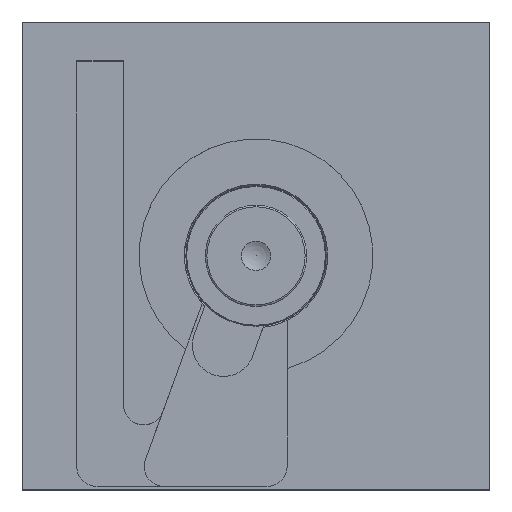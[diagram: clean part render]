
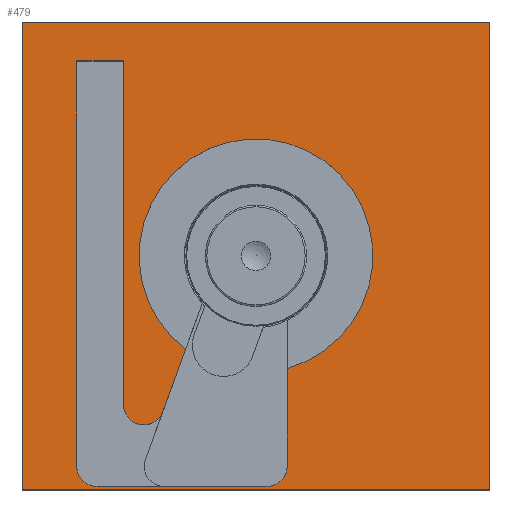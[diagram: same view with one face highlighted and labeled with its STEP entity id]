
A CAD part, top view. The second image highlights one B-rep face of the part: STEP entity #479.
In plain terms, the highlighted planar face has unit normal (0, 0, 1).
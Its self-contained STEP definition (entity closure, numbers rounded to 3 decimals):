
#479 = ADVANCED_FACE( '', ( #1025, #1026 ), #1027, .T. );
#1025 = FACE_OUTER_BOUND( '', #1605, .T. );
#1026 = FACE_BOUND( '', #1606, .T. );
#1027 = PLANE( '', #1607 );
#1605 = EDGE_LOOP( '', ( #2590, #2591, #2592, #2593 ) );
#1606 = EDGE_LOOP( '', ( #2594, #2595, #2596, #2597, #2598, #2599, #2600, #2601, #2602, #2603, #2604 ) );
#1607 = AXIS2_PLACEMENT_3D( '', #2605, #2606, #2607 );
#2590 = ORIENTED_EDGE( '', *, *, #3052, .T. );
#2591 = ORIENTED_EDGE( '', *, *, #2809, .T. );
#2592 = ORIENTED_EDGE( '', *, *, #2977, .T. );
#2593 = ORIENTED_EDGE( '', *, *, #2895, .T. );
#2594 = ORIENTED_EDGE( '', *, *, #2886, .T. );
#2595 = ORIENTED_EDGE( '', *, *, #2944, .T. );
#2596 = ORIENTED_EDGE( '', *, *, #2751, .F. );
#2597 = ORIENTED_EDGE( '', *, *, #2814, .T. );
#2598 = ORIENTED_EDGE( '', *, *, #3098, .T. );
#2599 = ORIENTED_EDGE( '', *, *, #2747, .T. );
#2600 = ORIENTED_EDGE( '', *, *, #2965, .T. );
#2601 = ORIENTED_EDGE( '', *, *, #3102, .T. );
#2602 = ORIENTED_EDGE( '', *, *, #2932, .T. );
#2603 = ORIENTED_EDGE( '', *, *, #3007, .T. );
#2604 = ORIENTED_EDGE( '', *, *, #3028, .T. );
#2605 = CARTESIAN_POINT( '', ( -150., -150., 0. ) );
#2606 = DIRECTION( '', ( 0., 0., 1. ) );
#2607 = DIRECTION( '', ( 0., -1., 0. ) );
#2747 = EDGE_CURVE( '', #3130, #3136, #3138, .T. );
#2751 = EDGE_CURVE( '', #3143, #3145, #3146, .T. );
#2809 = EDGE_CURVE( '', #3244, #3248, #3250, .T. );
#2814 = EDGE_CURVE( '', #3143, #3255, #3257, .T. );
#2886 = EDGE_CURVE( '', #3370, #3374, #3376, .T. );
#2895 = EDGE_CURVE( '', #3385, #3389, #3391, .T. );
#2932 = EDGE_CURVE( '', #3445, #3449, #3451, .T. );
#2944 = EDGE_CURVE( '', #3374, #3145, #3466, .T. );
#2965 = EDGE_CURVE( '', #3136, #3496, #3498, .T. );
#2977 = EDGE_CURVE( '', #3248, #3385, #3514, .T. );
#3007 = EDGE_CURVE( '', #3449, #3553, #3555, .T. );
#3028 = EDGE_CURVE( '', #3553, #3370, #3584, .T. );
#3052 = EDGE_CURVE( '', #3389, #3244, #3612, .T. );
#3098 = EDGE_CURVE( '', #3255, #3130, #3669, .F. );
#3102 = EDGE_CURVE( '', #3496, #3445, #3674, .F. );
#3130 = VERTEX_POINT( '', #3702 );
#3136 = VERTEX_POINT( '', #3711 );
#3138 = LINE( '', #3714, #3715 );
#3143 = VERTEX_POINT( '', #3720 );
#3145 = VERTEX_POINT( '', #3723 );
#3146 = CIRCLE( '', #3724, 75. );
#3244 = VERTEX_POINT( '', #4068 );
#3248 = VERTEX_POINT( '', #4074 );
#3250 = LINE( '', #4077, #4078 );
#3255 = VERTEX_POINT( '', #4085 );
#3257 = LINE( '', #4088, #4089 );
#3370 = VERTEX_POINT( '', #4432 );
#3374 = VERTEX_POINT( '', #4437 );
#3376 = CIRCLE( '', #4440, 13. );
#3385 = VERTEX_POINT( '', #4449 );
#3389 = VERTEX_POINT( '', #4455 );
#3391 = LINE( '', #4458, #4459 );
#3445 = VERTEX_POINT( '', #4520 );
#3449 = VERTEX_POINT( '', #4526 );
#3451 = LINE( '', #4529, #4530 );
#3466 = LINE( '', #4550, #4551 );
#3496 = VERTEX_POINT( '', #4585 );
#3498 = LINE( '', #4588, #4589 );
#3514 = LINE( '', #4606, #4607 );
#3553 = VERTEX_POINT( '', #4655 );
#3555 = LINE( '', #4658, #4659 );
#3584 = LINE( '', #4691, #4692 );
#3612 = LINE( '', #4725, #4726 );
#3669 = CIRCLE( '', #4792, 13. );
#3674 = CIRCLE( '', #4797, 13. );
#3702 = CARTESIAN_POINT( '', ( 7., -148., 0. ) );
#3711 = CARTESIAN_POINT( '', ( -58.714, -148., 0. ) );
#3714 = CARTESIAN_POINT( '', ( -150., -148., 0. ) );
#3715 = VECTOR( '', #4828, 1000. );
#3720 = CARTESIAN_POINT( '', ( 20., -72.284, 0. ) );
#3723 = CARTESIAN_POINT( '', ( -45.196, -59.852, 0. ) );
#3724 = AXIS2_PLACEMENT_3D( '', #4833, #4834, #4835 );
#4068 = CARTESIAN_POINT( '', ( -150., -150., 0. ) );
#4074 = CARTESIAN_POINT( '', ( 150., -150., 0. ) );
#4077 = CARTESIAN_POINT( '', ( -150., -150., 0. ) );
#4078 = VECTOR( '', #4898, 1000. );
#4085 = CARTESIAN_POINT( '', ( 20., -135., 0. ) );
#4088 = CARTESIAN_POINT( '', ( 20., -150., 0. ) );
#4089 = VECTOR( '', #4902, 1000. );
#4432 = CARTESIAN_POINT( '', ( -85., -95.485, 0. ) );
#4437 = CARTESIAN_POINT( '', ( -59.784, -99.931, 0. ) );
#4440 = AXIS2_PLACEMENT_3D( '', #4992, #4993, #4994 );
#4449 = CARTESIAN_POINT( '', ( 150., 150., 0. ) );
#4455 = CARTESIAN_POINT( '', ( -150., 150., 0. ) );
#4458 = CARTESIAN_POINT( '', ( 150., 150., 0. ) );
#4459 = VECTOR( '', #5004, 1000. );
#4520 = CARTESIAN_POINT( '', ( -115., -135., 0. ) );
#4526 = CARTESIAN_POINT( '', ( -115., 125., 0. ) );
#4529 = CARTESIAN_POINT( '', ( -115., -150., 0. ) );
#4530 = VECTOR( '', #5060, 1000. );
#4550 = CARTESIAN_POINT( '', ( -86.429, -173.138, 0. ) );
#4551 = VECTOR( '', #5072, 1000. );
#4585 = CARTESIAN_POINT( '', ( -102., -148., 0. ) );
#4588 = CARTESIAN_POINT( '', ( -150., -148., 0. ) );
#4589 = VECTOR( '', #5102, 1000. );
#4606 = CARTESIAN_POINT( '', ( 150., -150., 0. ) );
#4607 = VECTOR( '', #5116, 1000. );
#4655 = CARTESIAN_POINT( '', ( -85., 125., 0. ) );
#4658 = CARTESIAN_POINT( '', ( -150., 125., 0. ) );
#4659 = VECTOR( '', #5151, 1000. );
#4691 = CARTESIAN_POINT( '', ( -85., -150., 0. ) );
#4692 = VECTOR( '', #5179, 1000. );
#4725 = CARTESIAN_POINT( '', ( -150., 150., 0. ) );
#4726 = VECTOR( '', #5197, 1000. );
#4792 = AXIS2_PLACEMENT_3D( '', #5234, #5235, #5236 );
#4797 = AXIS2_PLACEMENT_3D( '', #5240, #5241, #5242 );
#4828 = DIRECTION( '', ( -1., 0., 0. ) );
#4833 = CARTESIAN_POINT( '', ( 0., 0., 0. ) );
#4834 = DIRECTION( '', ( 0., 0., 1. ) );
#4835 = DIRECTION( '', ( 1., 0., 0. ) );
#4898 = DIRECTION( '', ( 1., 0., 0. ) );
#4902 = DIRECTION( '', ( 0., -1., 0. ) );
#4992 = CARTESIAN_POINT( '', ( -72., -95.485, 0. ) );
#4993 = DIRECTION( '', ( 0., 0., 1. ) );
#4994 = DIRECTION( '', ( 1., 0., 0. ) );
#5004 = DIRECTION( '', ( -1., 0., 0. ) );
#5060 = DIRECTION( '', ( 0., 1., 0. ) );
#5072 = DIRECTION( '', ( 0.342, 0.94, 0. ) );
#5102 = DIRECTION( '', ( -1., 0., 0. ) );
#5116 = DIRECTION( '', ( 0., 1., 0. ) );
#5151 = DIRECTION( '', ( 1., 0., 0. ) );
#5179 = DIRECTION( '', ( 0., -1., 0. ) );
#5197 = DIRECTION( '', ( 0., -1., 0. ) );
#5234 = CARTESIAN_POINT( '', ( 7., -135., 0. ) );
#5235 = DIRECTION( '', ( 0., 0., 1. ) );
#5236 = DIRECTION( '', ( 1., 0., 0. ) );
#5240 = CARTESIAN_POINT( '', ( -102., -135., 0. ) );
#5241 = DIRECTION( '', ( 0., 0., 1. ) );
#5242 = DIRECTION( '', ( 1., 0., 0. ) );
